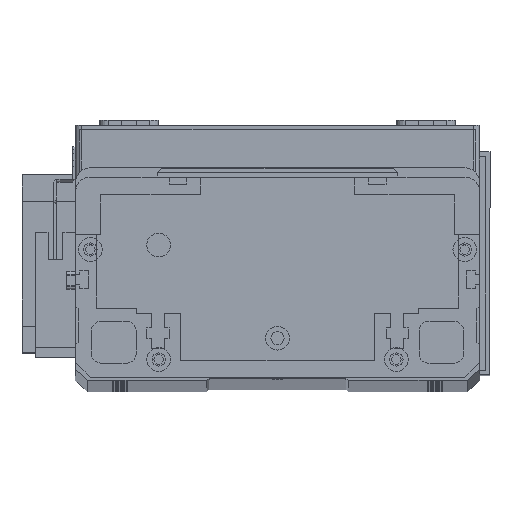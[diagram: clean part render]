
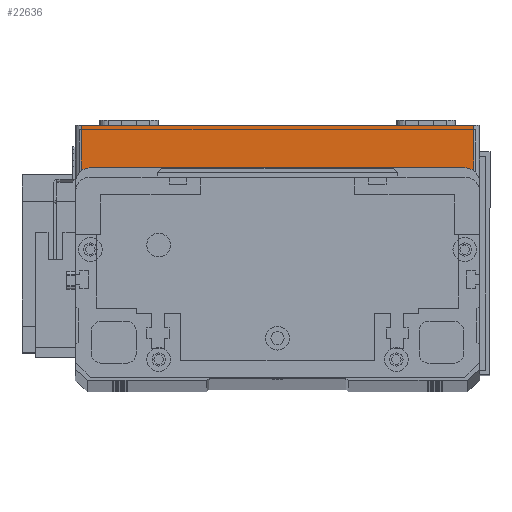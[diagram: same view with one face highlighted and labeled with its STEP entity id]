
A CAD part, top view. The second image highlights one B-rep face of the part: STEP entity #22636.
In plain terms, the highlighted planar face has unit normal (0, 0, 1) as drawn and (0, -1, 0) by its records, which use the part's own axes.
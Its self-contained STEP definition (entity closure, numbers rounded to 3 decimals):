
#1175 = VERTEX_POINT ( 'NONE', #30227 ) ;
#1363 = VECTOR ( 'NONE', #2347, 1000. ) ;
#1385 = ORIENTED_EDGE ( 'NONE', *, *, #19010, .T. ) ;
#2279 = EDGE_CURVE ( 'NONE', #1175, #10440, #26626, .T. ) ;
#2347 = DIRECTION ( 'NONE',  ( 1., 0., 0. ) ) ;
#2463 = CARTESIAN_POINT ( 'NONE',  ( 0., 0., 19.5 ) ) ;
#4021 = CARTESIAN_POINT ( 'NONE',  ( 2., 0., 0. ) ) ;
#4194 = VERTEX_POINT ( 'NONE', #25744 ) ;
#4927 = VECTOR ( 'NONE', #26420, 1000. ) ;
#5121 = ORIENTED_EDGE ( 'NONE', *, *, #5181, .T. ) ;
#5181 = EDGE_CURVE ( 'NONE', #4194, #16365, #25858, .T. ) ;
#5268 = CARTESIAN_POINT ( 'NONE',  ( 2., 0., 19.5 ) ) ;
#5404 = LINE ( 'NONE', #2463, #1363 ) ;
#9314 = DIRECTION ( 'NONE',  ( 0., 1., 0. ) ) ;
#10100 = ORIENTED_EDGE ( 'NONE', *, *, #15515, .F. ) ;
#10440 = VERTEX_POINT ( 'NONE', #15272 ) ;
#11075 = AXIS2_PLACEMENT_3D ( 'NONE', #23416, #9314, #25761 ) ;
#11441 = CARTESIAN_POINT ( 'NONE',  ( 134., 0., 19.5 ) ) ;
#11883 = ORIENTED_EDGE ( 'NONE', *, *, #2279, .T. ) ;
#12220 = LINE ( 'NONE', #30240, #23971 ) ;
#15272 = CARTESIAN_POINT ( 'NONE',  ( 134., 0., 19.5 ) ) ;
#15515 = EDGE_CURVE ( 'NONE', #4194, #10440, #5404, .T. ) ;
#16365 = VERTEX_POINT ( 'NONE', #4021 ) ;
#18574 = DIRECTION ( 'NONE',  ( 1., 0., 0. ) ) ;
#18649 = FACE_OUTER_BOUND ( 'NONE', #25319, .T. ) ;
#19010 = EDGE_CURVE ( 'NONE', #16365, #1175, #12220, .T. ) ;
#20373 = VECTOR ( 'NONE', #27871, 1000. ) ;
#22636 = ADVANCED_FACE ( 'NONE', ( #18649 ), #30389, .F. ) ;
#23416 = CARTESIAN_POINT ( 'NONE',  ( 0., 0., 19.5 ) ) ;
#23971 = VECTOR ( 'NONE', #18574, 1000. ) ;
#25319 = EDGE_LOOP ( 'NONE', ( #10100, #5121, #1385, #11883 ) ) ;
#25744 = CARTESIAN_POINT ( 'NONE',  ( 2., 0., 19.5 ) ) ;
#25761 = DIRECTION ( 'NONE',  ( 0., 0., 1. ) ) ;
#25858 = LINE ( 'NONE', #5268, #4927 ) ;
#26420 = DIRECTION ( 'NONE',  ( 0., 0., -1. ) ) ;
#26626 = LINE ( 'NONE', #11441, #20373 ) ;
#27871 = DIRECTION ( 'NONE',  ( 0., 0., 1. ) ) ;
#30227 = CARTESIAN_POINT ( 'NONE',  ( 134., 0., 0. ) ) ;
#30240 = CARTESIAN_POINT ( 'NONE',  ( 0., 0., 0. ) ) ;
#30389 = PLANE ( 'NONE',  #11075 ) ;
